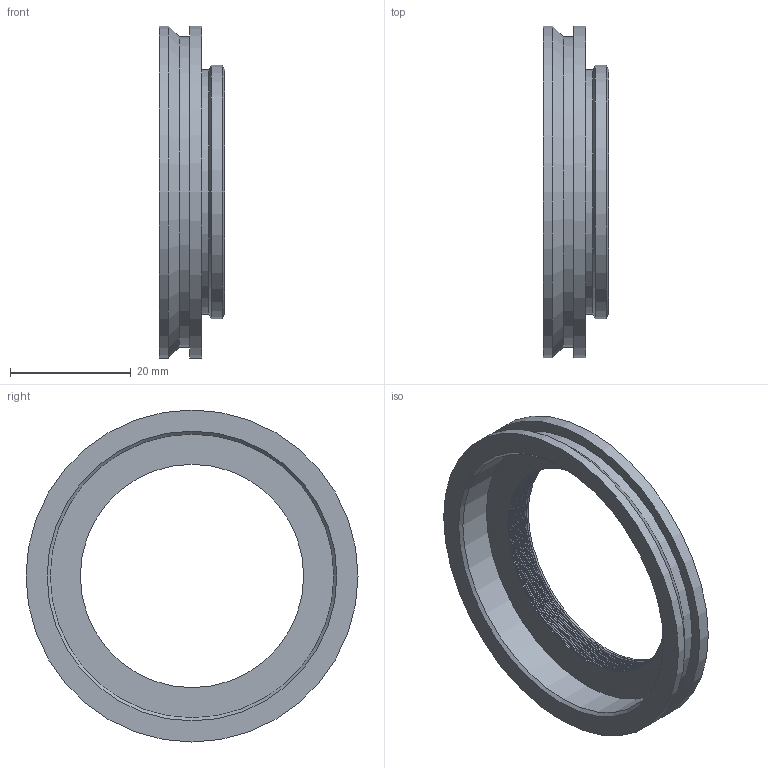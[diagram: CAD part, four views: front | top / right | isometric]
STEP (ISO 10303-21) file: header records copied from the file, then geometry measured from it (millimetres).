
FILE_DESCRIPTION(/* description */ (''),/* implementation_level */ '2;1');
FILE_NAME(/* name */ '2408-009-119-00_AP',/* time_stamp */ '2009-07-28T09:34:56+02:00',/* author */ (''),/* organization */ (''),/* preprocessor_version */ 'ST-DEVELOPER v9',/* originating_system */ 'UGS - NX 4.0',/* authorisation */ '');
FILE_SCHEMA (('AUTOMOTIVE_DESIGN { 1 0 10303 214 1 1 1 1 }'));
Length unit declared in the file: millimetre
Products named in the file (1): pant3010h97b
Bounding box: 10.8 x 55 x 55 mm (x, y, z)
Volume: 5303.9 mm3; surface area: 6330.6 mm2
Topology: 1 solids, 1 shells, 46 faces, 110 edges, 69 vertices
Faces by surface type: cone 18, torus 15, cylinder 8, plane 5
Full cylindrical faces by diameter (mm): 37 x2, 40.6 x1, 42 x1, 47 x1, 51.4 x1, 55 x2
Entity records: 1275 total; most frequent: DIRECTION 186, CARTESIAN_POINT 139, AXIS2_PLACEMENT_3D 93, EDGE_LOOP 92, ORIENTED_EDGE 92, FACE_BOUND 69, PRESENTATION_STYLE_ASSIGNMENT 47, SURFACE_STYLE_USAGE 47
